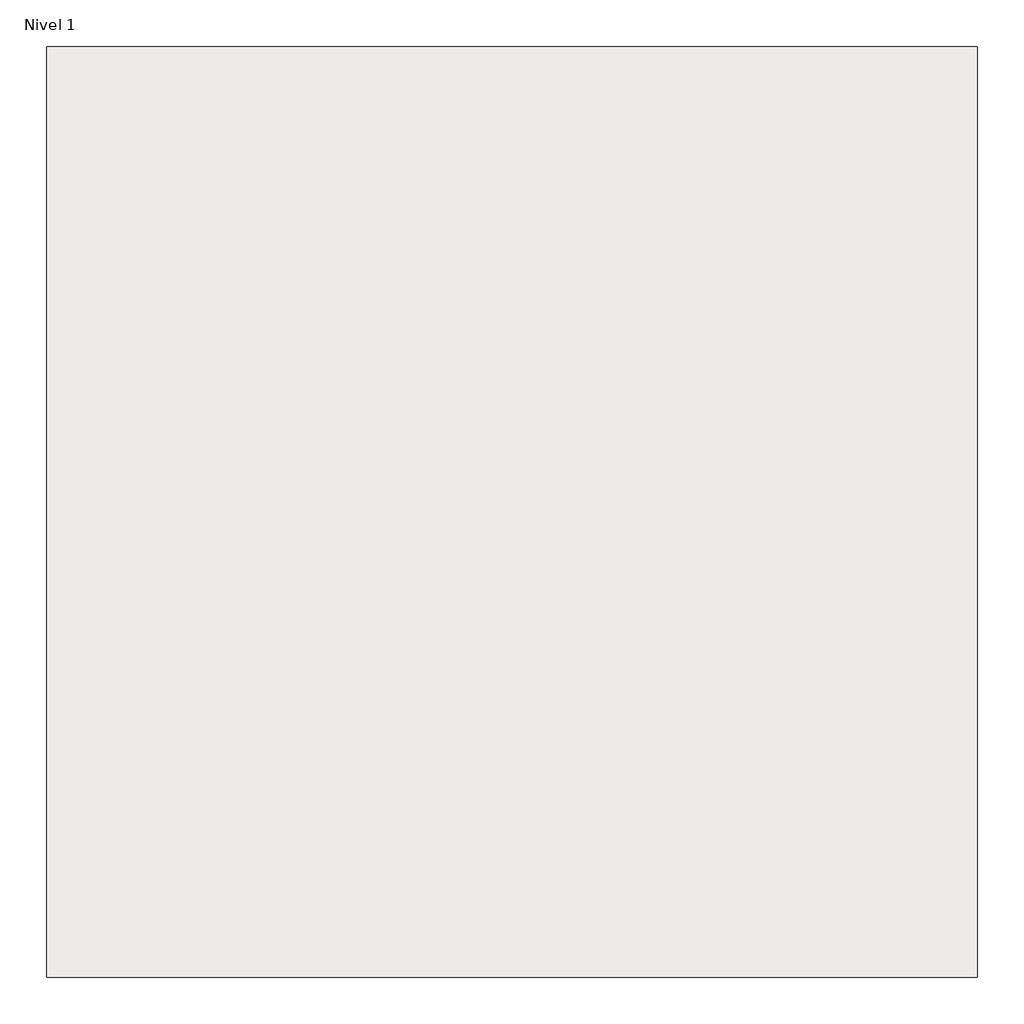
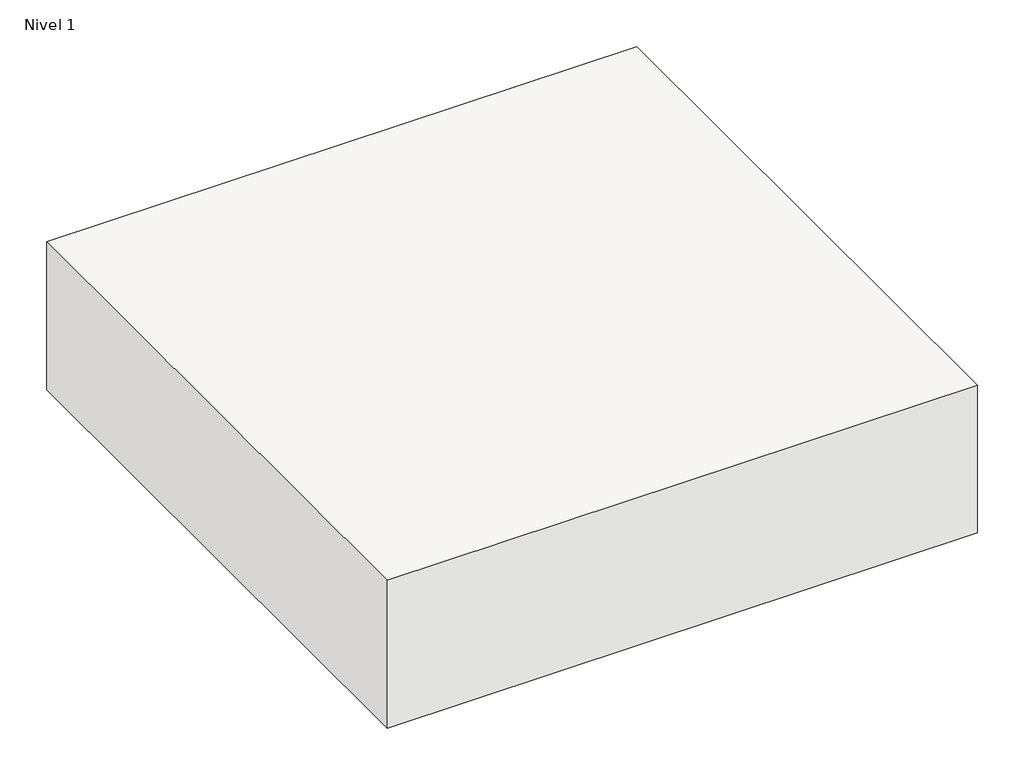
# One storey: 1 slab.
"""IFC4 building model written with IfcOpenShell, lengths in millimetres."""

from ifc_helpers import new_model, si_unit, frame, origin, place, context, project, spatial, polyline, outline, extrude, element, save

model = new_model("IFC4")

# Units and contexts
model_context = context("Model", 3, world=origin())
ifc_project = project(units=[si_unit("LENGTHUNIT", "METRE", prefix="MILLI")], contexts=[model_context])

# Site, building, storey
site = spatial("IfcSite", under=ifc_project)
building = spatial("IfcBuilding", under=site)
storey = spatial("IfcBuildingStorey", under=building, Name="Nivel 1", Elevation=0.0)

# Slab
placement = place(None, origin())
element("IfcSlab", 1, ObjectType="Suelo flotante estándar con ChovAIMPACT 5RT - Sistema S03", at=placement, inside=storey, context=model_context, shape_type="SweptSolid", body=[
    extrude(outline(polyline([(-3481.3346139, -2999.8684589), (-4481.3346139, -2999.8684589), (-4481.3346139, -1999.8684589), (-3481.3346139, -1999.8684589), (-3481.3346139, -2999.8684589)])), frame((0.0, 0.0, -265.0), z_axis=(0.0, 0.0, 1.0), x_axis=(1.0, 0.0, 0.0)), (0.0, 0.0, 1.0), 265.0),
])

save(model, "model.ifc")
